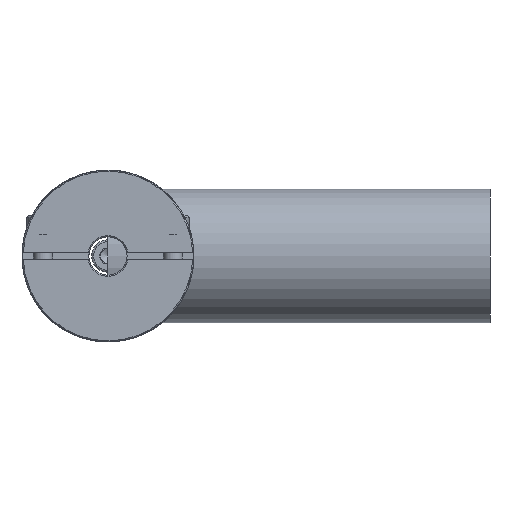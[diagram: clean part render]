
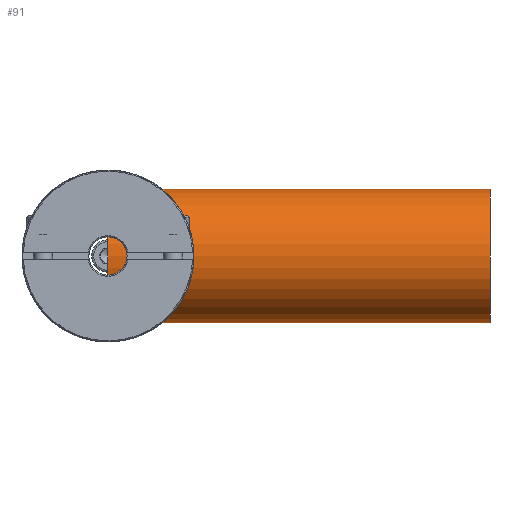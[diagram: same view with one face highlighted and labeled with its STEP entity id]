
A CAD part, left-side view. The second image highlights one B-rep face of the part: STEP entity #91.
In plain terms, the highlighted cylindrical face has radius 17.5 mm (diameter 35 mm), a full revolution.
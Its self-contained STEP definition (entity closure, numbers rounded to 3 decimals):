
#91 = ADVANCED_FACE( '', ( #149, #150 ), #151, .T. );
#149 = FACE_OUTER_BOUND( '', #218, .T. );
#150 = FACE_OUTER_BOUND( '', #219, .T. );
#151 = CYLINDRICAL_SURFACE( '', #220, 17.5 );
#218 = EDGE_LOOP( '', ( #432 ) );
#219 = EDGE_LOOP( '', ( #433 ) );
#220 = AXIS2_PLACEMENT_3D( '', #434, #435, #436 );
#432 = ORIENTED_EDGE( '', *, *, #911, .T. );
#433 = ORIENTED_EDGE( '', *, *, #912, .F. );
#434 = CARTESIAN_POINT( '', ( 0., -100., 0. ) );
#435 = DIRECTION( '', ( 0., -1., 0. ) );
#436 = DIRECTION( '', ( 0., 0., 1. ) );
#911 = EDGE_CURVE( '', #1374, #1374, #1375, .T. );
#912 = EDGE_CURVE( '', #1376, #1376, #1377, .T. );
#1374 = VERTEX_POINT( '', #2259 );
#1375 = CIRCLE( '', #2260, 17.5 );
#1376 = VERTEX_POINT( '', #2261 );
#1377 = CIRCLE( '', #2262, 17.5 );
#2259 = CARTESIAN_POINT( '', ( 17.5, -100., 0. ) );
#2260 = AXIS2_PLACEMENT_3D( '', #2470, #2471, #2472 );
#2261 = CARTESIAN_POINT( '', ( 17.5, 0., 0. ) );
#2262 = AXIS2_PLACEMENT_3D( '', #2473, #2474, #2475 );
#2470 = CARTESIAN_POINT( '', ( 0., -100., 0. ) );
#2471 = DIRECTION( '', ( 0., 1., 0. ) );
#2472 = DIRECTION( '', ( 1., 0., 0. ) );
#2473 = CARTESIAN_POINT( '', ( 0., 0., 0. ) );
#2474 = DIRECTION( '', ( 0., 1., 0. ) );
#2475 = DIRECTION( '', ( 1., 0., 0. ) );
